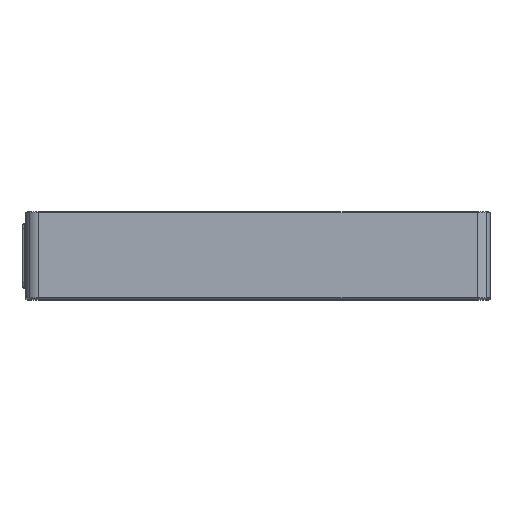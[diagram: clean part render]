
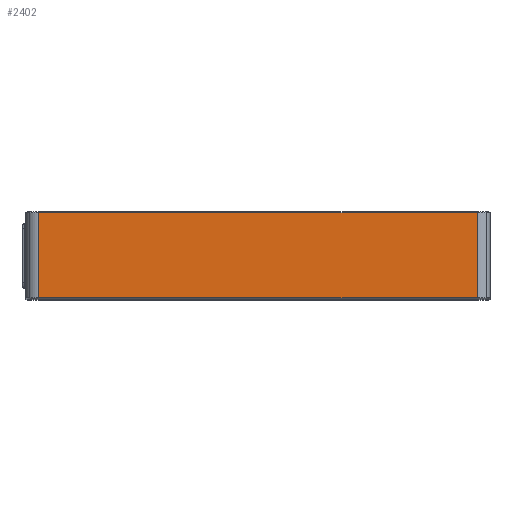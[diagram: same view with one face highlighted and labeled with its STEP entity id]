
A CAD part, top view. The second image highlights one B-rep face of the part: STEP entity #2402.
In plain terms, the highlighted planar face has unit normal (0, 0, 1).
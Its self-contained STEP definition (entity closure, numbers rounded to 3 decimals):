
#46 = VERTEX_POINT ( 'NONE', #1952 ) ;
#126 = PLANE ( 'NONE',  #2524 ) ;
#265 = DIRECTION ( 'NONE',  ( -1., 0., 0. ) ) ;
#301 = LINE ( 'NONE', #1228, #2106 ) ;
#354 = EDGE_CURVE ( 'NONE', #2735, #2803, #301, .T. ) ;
#473 = LINE ( 'NONE', #1395, #1688 ) ;
#520 = ORIENTED_EDGE ( 'NONE', *, *, #957, .F. ) ;
#624 = CARTESIAN_POINT ( 'NONE',  ( -85., 0.5, 130. ) ) ;
#633 = DIRECTION ( 'NONE',  ( 0., -1., 0. ) ) ;
#830 = CARTESIAN_POINT ( 'NONE',  ( 85., 33.5, 130. ) ) ;
#905 = ORIENTED_EDGE ( 'NONE', *, *, #354, .F. ) ;
#957 = EDGE_CURVE ( 'NONE', #1201, #2735, #2028, .T. ) ;
#1036 = DIRECTION ( 'NONE',  ( 0., 0., 1. ) ) ;
#1052 = FACE_OUTER_BOUND ( 'NONE', #1515, .T. ) ;
#1084 = CARTESIAN_POINT ( 'NONE',  ( -90., 0., 130. ) ) ;
#1112 = CARTESIAN_POINT ( 'NONE',  ( 85., 0.5, 130. ) ) ;
#1142 = ORIENTED_EDGE ( 'NONE', *, *, #2552, .F. ) ;
#1180 = VECTOR ( 'NONE', #1961, 1000. ) ;
#1201 = VERTEX_POINT ( 'NONE', #830 ) ;
#1228 = CARTESIAN_POINT ( 'NONE',  ( -45., 0.5, 130. ) ) ;
#1395 = CARTESIAN_POINT ( 'NONE',  ( -85., 0., 130. ) ) ;
#1430 = EDGE_CURVE ( 'NONE', #2803, #46, #473, .T. ) ;
#1515 = EDGE_LOOP ( 'NONE', ( #905, #520, #1142, #2352 ) ) ;
#1688 = VECTOR ( 'NONE', #2760, 1000. ) ;
#1731 = CARTESIAN_POINT ( 'NONE',  ( -45., 33.5, 130. ) ) ;
#1952 = CARTESIAN_POINT ( 'NONE',  ( -85., 33.5, 130. ) ) ;
#1961 = DIRECTION ( 'NONE',  ( 1., 0., 0. ) ) ;
#2028 = LINE ( 'NONE', #2069, #2361 ) ;
#2069 = CARTESIAN_POINT ( 'NONE',  ( 85., 0., 130. ) ) ;
#2106 = VECTOR ( 'NONE', #265, 1000. ) ;
#2352 = ORIENTED_EDGE ( 'NONE', *, *, #1430, .F. ) ;
#2361 = VECTOR ( 'NONE', #633, 1000. ) ;
#2402 = ADVANCED_FACE ( 'NONE', ( #1052 ), #126, .T. ) ;
#2426 = LINE ( 'NONE', #1731, #1180 ) ;
#2524 = AXIS2_PLACEMENT_3D ( 'NONE', #1084, #1036, #2631 ) ;
#2552 = EDGE_CURVE ( 'NONE', #46, #1201, #2426, .T. ) ;
#2631 = DIRECTION ( 'NONE',  ( 1., 0., 0. ) ) ;
#2735 = VERTEX_POINT ( 'NONE', #1112 ) ;
#2760 = DIRECTION ( 'NONE',  ( 0., 1., 0. ) ) ;
#2803 = VERTEX_POINT ( 'NONE', #624 ) ;
